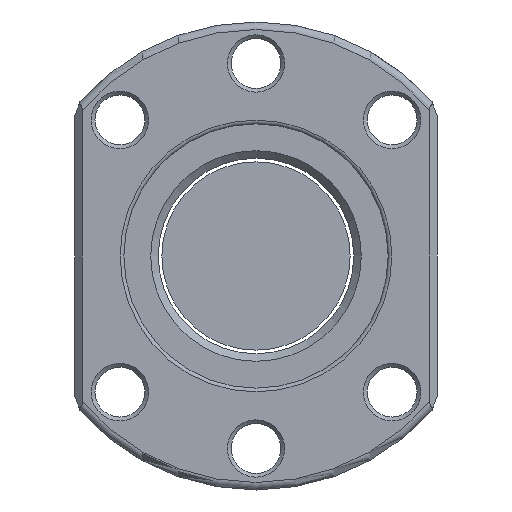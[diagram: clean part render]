
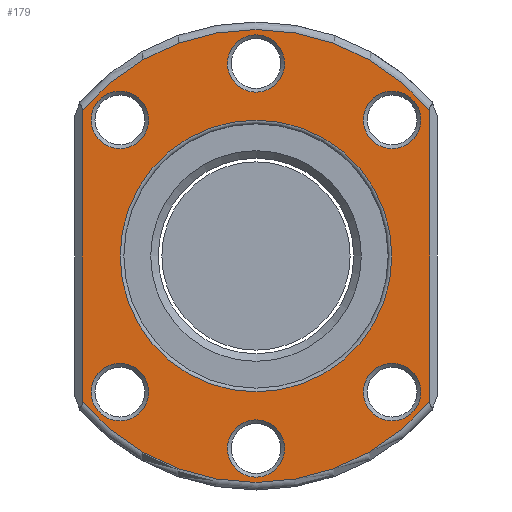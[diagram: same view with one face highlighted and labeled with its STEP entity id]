
A CAD part, front view. The second image highlights one B-rep face of the part: STEP entity #179.
In plain terms, the highlighted planar face has unit normal (0, -1, 0).
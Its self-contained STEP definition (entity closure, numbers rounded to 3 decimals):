
#74=LINE('',#1221,#98);
#75=LINE('',#1225,#99);
#98=VECTOR('',#1000,1.);
#99=VECTOR('',#1003,1.);
#134=PLANE('',#835);
#179=ADVANCED_FACE('',(#252,#253,#254,#255,#256,#257,#258,#259),#134,.T.);
#252=FACE_BOUND('',#336,.T.);
#253=FACE_BOUND('',#337,.T.);
#254=FACE_BOUND('',#338,.T.);
#255=FACE_BOUND('',#339,.T.);
#256=FACE_BOUND('',#340,.T.);
#257=FACE_BOUND('',#341,.T.);
#258=FACE_BOUND('',#342,.T.);
#259=FACE_BOUND('',#343,.T.);
#336=EDGE_LOOP('',(#447));
#337=EDGE_LOOP('',(#448));
#338=EDGE_LOOP('',(#449));
#339=EDGE_LOOP('',(#450));
#340=EDGE_LOOP('',(#451));
#341=EDGE_LOOP('',(#452));
#342=EDGE_LOOP('',(#453));
#343=EDGE_LOOP('',(#454,#455,#456,#457));
#447=ORIENTED_EDGE('',*,*,#690,.T.);
#448=ORIENTED_EDGE('',*,*,#691,.T.);
#449=ORIENTED_EDGE('',*,*,#692,.T.);
#450=ORIENTED_EDGE('',*,*,#693,.T.);
#451=ORIENTED_EDGE('',*,*,#694,.T.);
#452=ORIENTED_EDGE('',*,*,#695,.T.);
#453=ORIENTED_EDGE('',*,*,#696,.T.);
#454=ORIENTED_EDGE('',*,*,#697,.T.);
#455=ORIENTED_EDGE('',*,*,#698,.T.);
#456=ORIENTED_EDGE('',*,*,#699,.T.);
#457=ORIENTED_EDGE('',*,*,#700,.T.);
#619=VERTEX_POINT('',#1205);
#620=VERTEX_POINT('',#1207);
#621=VERTEX_POINT('',#1209);
#622=VERTEX_POINT('',#1211);
#623=VERTEX_POINT('',#1213);
#624=VERTEX_POINT('',#1215);
#625=VERTEX_POINT('',#1217);
#626=VERTEX_POINT('',#1219);
#627=VERTEX_POINT('',#1220);
#628=VERTEX_POINT('',#1222);
#629=VERTEX_POINT('',#1224);
#690=EDGE_CURVE('',#619,#619,#763,.T.);
#691=EDGE_CURVE('',#620,#620,#764,.T.);
#692=EDGE_CURVE('',#621,#621,#765,.T.);
#693=EDGE_CURVE('',#622,#622,#766,.T.);
#694=EDGE_CURVE('',#623,#623,#767,.T.);
#695=EDGE_CURVE('',#624,#624,#768,.T.);
#696=EDGE_CURVE('',#625,#625,#769,.T.);
#697=EDGE_CURVE('',#626,#627,#770,.T.);
#698=EDGE_CURVE('',#627,#628,#74,.T.);
#699=EDGE_CURVE('',#628,#629,#771,.T.);
#700=EDGE_CURVE('',#629,#626,#75,.T.);
#763=CIRCLE('',#826,18.);
#764=CIRCLE('',#827,3.8);
#765=CIRCLE('',#828,3.8);
#766=CIRCLE('',#829,3.8);
#767=CIRCLE('',#830,3.8);
#768=CIRCLE('',#831,3.8);
#769=CIRCLE('',#832,3.8);
#770=CIRCLE('',#833,30.);
#771=CIRCLE('',#834,30.);
#826=AXIS2_PLACEMENT_3D('',#1204,#984,#985);
#827=AXIS2_PLACEMENT_3D('',#1206,#986,#987);
#828=AXIS2_PLACEMENT_3D('',#1208,#988,#989);
#829=AXIS2_PLACEMENT_3D('',#1210,#990,#991);
#830=AXIS2_PLACEMENT_3D('',#1212,#992,#993);
#831=AXIS2_PLACEMENT_3D('',#1214,#994,#995);
#832=AXIS2_PLACEMENT_3D('',#1216,#996,#997);
#833=AXIS2_PLACEMENT_3D('',#1218,#998,#999);
#834=AXIS2_PLACEMENT_3D('',#1223,#1001,#1002);
#835=AXIS2_PLACEMENT_3D('',#1226,#1004,#1005);
#984=DIRECTION('',(0.,1.,0.));
#985=DIRECTION('',(0.,0.,-1.));
#986=DIRECTION('',(0.,1.,0.));
#987=DIRECTION('',(0.,0.,-1.));
#988=DIRECTION('',(0.,1.,0.));
#989=DIRECTION('',(0.,0.,-1.));
#990=DIRECTION('',(0.,1.,0.));
#991=DIRECTION('',(0.,0.,-1.));
#992=DIRECTION('',(0.,1.,0.));
#993=DIRECTION('',(0.,0.,-1.));
#994=DIRECTION('',(0.,1.,0.));
#995=DIRECTION('',(0.,0.,-1.));
#996=DIRECTION('',(0.,1.,0.));
#997=DIRECTION('',(0.,0.,-1.));
#998=DIRECTION('',(0.,-1.,0.));
#999=DIRECTION('',(0.,0.,-1.));
#1000=DIRECTION('',(0.,0.,1.));
#1001=DIRECTION('',(0.,-1.,0.));
#1002=DIRECTION('',(0.,0.,-1.));
#1003=DIRECTION('',(0.,0.,-1.));
#1004=DIRECTION('',(0.,-1.,0.));
#1005=DIRECTION('',(0.,0.,-1.));
#1204=CARTESIAN_POINT('',(0.,0.,0.));
#1205=CARTESIAN_POINT('',(0.,0.,-18.));
#1206=CARTESIAN_POINT('',(18.031,0.,18.031));
#1207=CARTESIAN_POINT('',(18.031,0.,14.231));
#1208=CARTESIAN_POINT('',(-18.031,0.,-18.031));
#1209=CARTESIAN_POINT('',(-18.031,0.,-21.831));
#1210=CARTESIAN_POINT('',(0.,0.,-25.5));
#1211=CARTESIAN_POINT('',(0.,0.,-29.3));
#1212=CARTESIAN_POINT('',(18.031,0.,-18.031));
#1213=CARTESIAN_POINT('',(18.031,0.,-21.831));
#1214=CARTESIAN_POINT('',(0.,0.,25.5));
#1215=CARTESIAN_POINT('',(0.,0.,21.7));
#1216=CARTESIAN_POINT('',(-18.031,0.,18.031));
#1217=CARTESIAN_POINT('',(-18.031,0.,14.231));
#1218=CARTESIAN_POINT('',(0.,0.,0.));
#1219=CARTESIAN_POINT('',(-23.,0.,-19.261));
#1220=CARTESIAN_POINT('',(23.,0.,-19.261));
#1221=CARTESIAN_POINT('',(23.,0.,0.));
#1222=CARTESIAN_POINT('',(23.,0.,19.261));
#1223=CARTESIAN_POINT('',(0.,0.,0.));
#1224=CARTESIAN_POINT('',(-23.,0.,19.261));
#1225=CARTESIAN_POINT('',(-23.,0.,0.));
#1226=CARTESIAN_POINT('',(0.,0.,0.));
